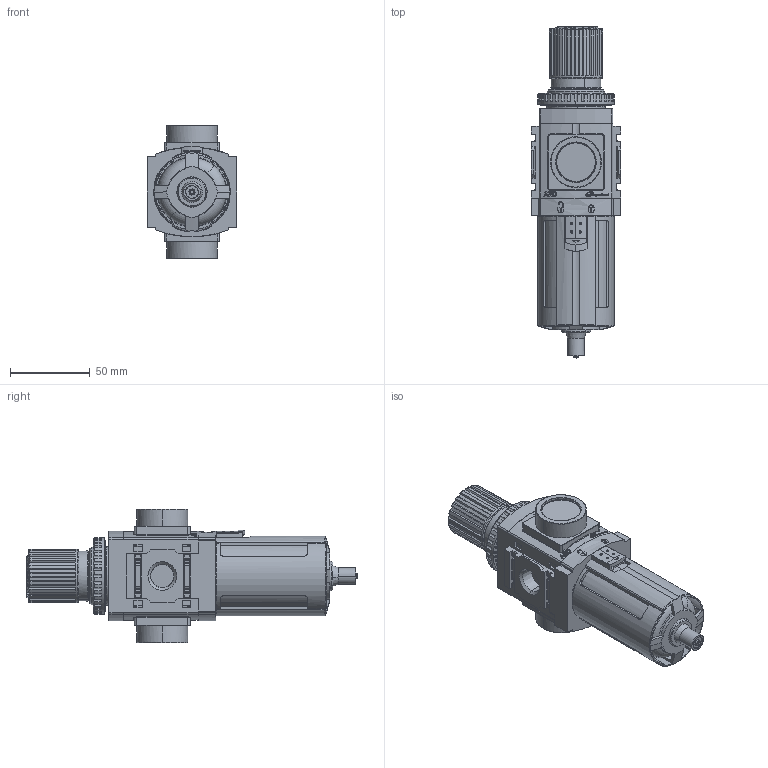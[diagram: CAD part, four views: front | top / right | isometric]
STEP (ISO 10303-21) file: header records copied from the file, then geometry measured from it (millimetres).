
FILE_DESCRIPTION(/* description */ (''),/* implementation_level */ '2;1');
FILE_NAME(/* name */ 'P392XX-X0X_01',/* time_stamp */ '2009-02-04T09:03:12-05:00',/* author */ (''),/* organization */ (''),/* preprocessor_version */ 'ST-DEVELOPER v9',/* originating_system */ 'UGS - NX 4.0',/* authorisation */ '');
FILE_SCHEMA (('AUTOMOTIVE_DESIGN { 1 0 10303 214 1 1 1 1 }'));
Length unit declared in the file: inch
Products named in the file (1): szee0781jiz7
Bounding box: 56 x 208.46 x 84.1 mm (x, y, z)
Volume: 369479 mm3; surface area: 65641.9 mm2
Topology: 2 solids, 2 shells, 1792 faces, 4563 edges, 2889 vertices
Faces by surface type: plane 801, cylinder 567, bspline 137, extrusion 106, torus 93, cone 67, sphere 17, revolution 4
Full cylindrical faces by diameter (mm): 3.3 x1
Entity records: 81592 total; most frequent: CARTESIAN_POINT 31426, ORIENTED_EDGE 9126, DIRECTION 5564, EDGE_CURVE 4563, VERTEX_POINT 2890, B_SPLINE_CURVE_WITH_KNOTS 2613, EDGE_LOOP 1927, AXIS2_PLACEMENT_3D 1921
